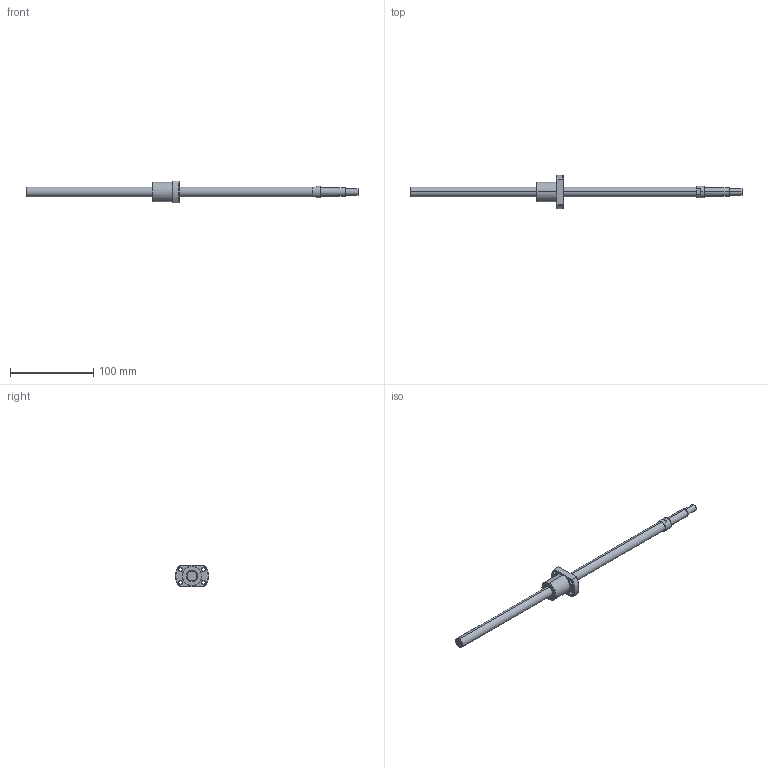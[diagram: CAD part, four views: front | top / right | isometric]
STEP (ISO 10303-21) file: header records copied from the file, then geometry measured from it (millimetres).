
FILE_DESCRIPTION (( 'STEP AP214' ), '1' );
FILE_NAME ('NSGF1205-340R400C_A_X.STEP', '2026-08-25T19:23:18', ( '' ), ( '' ), 'SwSTEP 2.0', 'SolidWorks 2025', '' );
FILE_SCHEMA (( 'AUTOMOTIVE_DESIGN' ));
Length unit declared in the file: millimetre
Products named in the file (3): NSG1205Z-340R40029_(T-S_T-A_2)-2^NSGF1205-340R400C_A_X; NSGF1205Z-1_2^NSGF1205-340R400C_A_X; NSGF1205-340R400C_A_X
Assembly tree (2 placements, depth 2):
  NSGF1205-340R400C_A_X
    NSG1205Z-340R40029_(T-S_T-A_2)-2^NSGF1205-340R400C_A_X
    NSGF1205Z-1_2^NSGF1205-340R400C_A_X
Bounding box: 400 x 39.88 x 26 mm (x, y, z)
Volume: 56120.5 mm3; surface area: 21170.9 mm2
Topology: 2 solids, 2 shells, 54 faces, 124 edges, 78 vertices
Faces by surface type: cylinder 24, plane 16, cone 12, torus 2
Entity records: 1682 total; most frequent: DIRECTION 302, CARTESIAN_POINT 285, ORIENTED_EDGE 248, AXIS2_PLACEMENT_3D 127, EDGE_CURVE 124, VERTEX_POINT 78, CIRCLE 68, EDGE_LOOP 68
